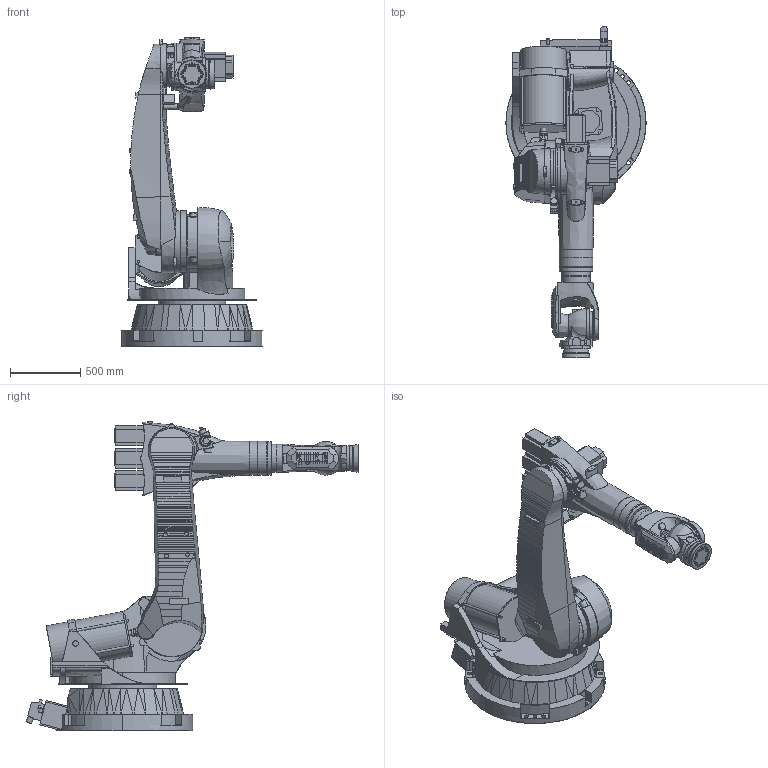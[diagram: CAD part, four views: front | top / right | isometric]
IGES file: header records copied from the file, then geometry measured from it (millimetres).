
Global section: file name: U:\simple\KR2000-2\KR200.igs; native system: Unigraphics Version X V1.0; preprocessor: Unigraphics NX IGES V1.0; date: 20040310.145523; units: millimetre
Bounding box: 1000 x 2369.35 x 2210.44 mm (x, y, z)
Surface area: 13076129.8 mm2 (no closed solid volume)
Topology: 0 solids, 0 shells, 1405 faces, 22530 edges, 22378 vertices
Faces by surface type: extrusion 918, revolution 312, bspline 169, offset 6
